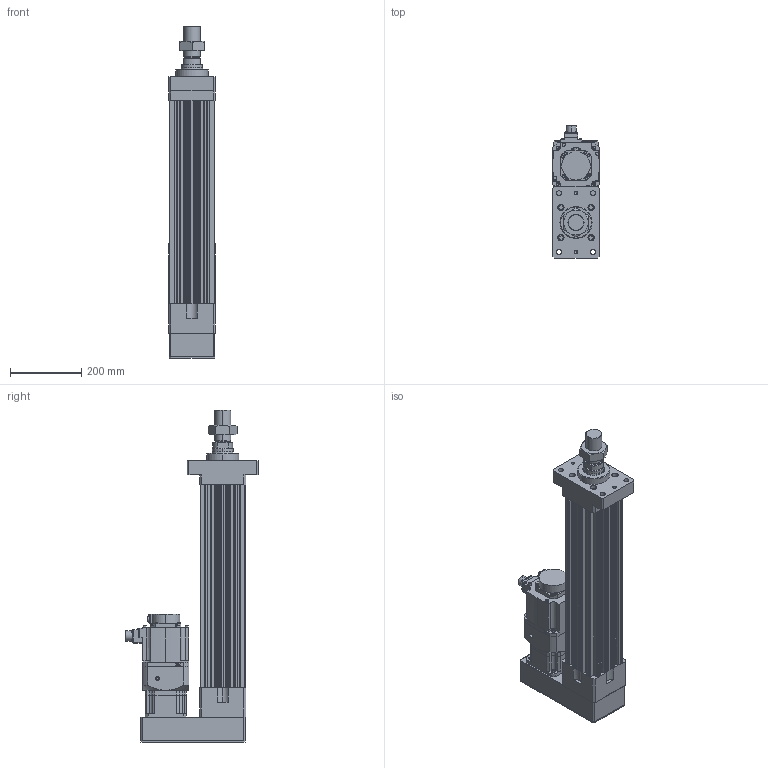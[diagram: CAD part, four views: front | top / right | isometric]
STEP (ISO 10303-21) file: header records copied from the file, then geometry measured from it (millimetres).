
FILE_DESCRIPTION (( 'STEP AP203' ), '1' );
FILE_NAME ('HES130NS(FS)(HS)-P350-W015G00-M-FMB.STEP', '2023-01-29T05:30:57', ( 'tms' ), ( '' ), 'SwSTEP 2.0', 'SolidWorks 2013', '' );
FILE_SCHEMA (( 'CONFIG_CONTROL_DESIGN' ));
Length unit declared in the file: millimetre
Products named in the file (8): HES130 ROD M ST350; HES130NS(FS)(HS)-P350-W015G00-M-FMB; HES130-P350-G120-FMB; AB1151; AB115-003[HG-SR152]; P0401400706; HG-SR152; M45X1.5P
Assembly tree (7 placements, depth 3):
  HES130NS(FS)(HS)-P350-W015G00-M-FMB
    HES130-P350-G120-FMB
    HES130 ROD M ST350
    M45X1.5P
    AB115-003[HG-SR152]
      AB1151
      P0401400706
    HG-SR152
Bounding box: 130 x 372.49 x 932 mm (x, y, z)
Volume: 11239226.2 mm3; surface area: 1307851.9 mm2
Topology: 4 solids, 11 shells, 1082 faces, 2768 edges, 1799 vertices
Faces by surface type: cylinder 513, plane 489, cone 68, bspline 8, torus 4
Entity records: 34626 total; most frequent: CARTESIAN_POINT 6632, DIRECTION 5993, ORIENTED_EDGE 5484, EDGE_CURVE 2752, AXIS2_PLACEMENT_3D 2228, VERTEX_POINT 1799, LINE 1537, VECTOR 1537
